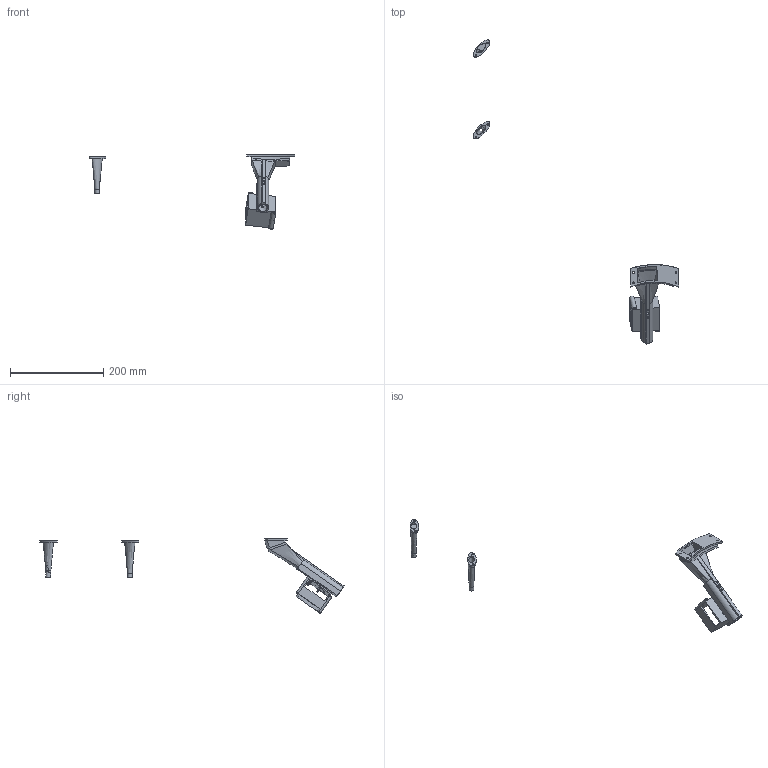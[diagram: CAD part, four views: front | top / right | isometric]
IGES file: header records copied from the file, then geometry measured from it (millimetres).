
Global section: file name: 650-case-and-bullet-feeder-20Nov18; native system: unknown; preprocessor: unknown; author: thing.thing; organization: unknown; date: 20181120.071821; units: millimetre
Bounding box: 441.03 x 652.18 x 159.99 mm (x, y, z)
Volume: 140196.3 mm3; surface area: 85671.8 mm2
Topology: 5 solids, 6 shells, 187 faces, 495 edges, 331 vertices
Faces by surface type: bspline 187
